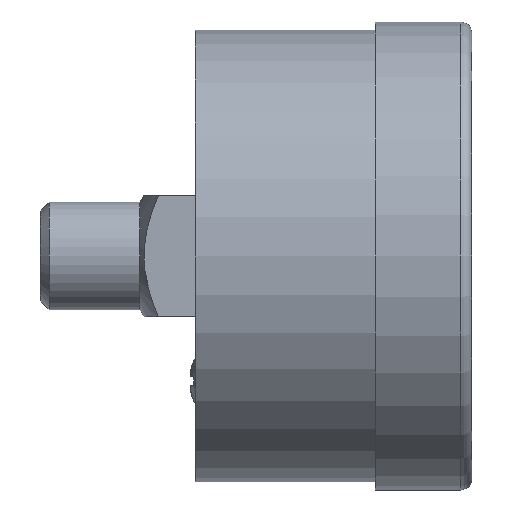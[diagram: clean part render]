
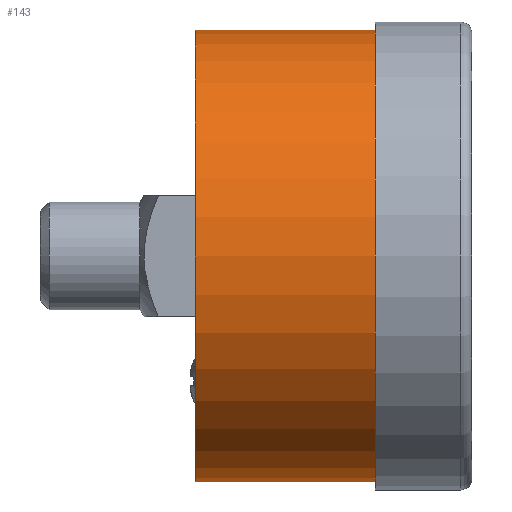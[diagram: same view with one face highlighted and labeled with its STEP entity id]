
A CAD part, front view. The second image highlights one B-rep face of the part: STEP entity #143.
In plain terms, the highlighted cylindrical face has radius 20.4 mm (diameter 40.8 mm), a full revolution.
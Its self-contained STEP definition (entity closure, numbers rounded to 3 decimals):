
#143=ADVANCED_FACE('',(#372,#374),#376,.T.);
#372=FACE_OUTER_BOUND('',#373,.T.);
#373=EDGE_LOOP('',(#1377));
#374=FACE_OUTER_BOUND('',#375,.T.);
#375=EDGE_LOOP('',(#1378));
#376=CYLINDRICAL_SURFACE('',#377,20.4);
#377=AXIS2_PLACEMENT_3D('',#378,#379,#380);
#378=CARTESIAN_POINT('',(0.,0.,0.));
#379=DIRECTION('',(1.,0.,0.));
#380=DIRECTION('',(0.,1.,0.));
#1377=ORIENTED_EDGE('',*,*,#1743,.F.);
#1378=ORIENTED_EDGE('',*,*,#1741,.T.);
#1741=EDGE_CURVE('',#1972,#1972,#1973,.T.);
#1743=EDGE_CURVE('',#1976,#1976,#1977,.T.);
#1972=VERTEX_POINT('',#2477);
#1973=CIRCLE('',#2478,20.4);
#1976=VERTEX_POINT('',#2487);
#1977=CIRCLE('',#2488,20.4);
#2477=CARTESIAN_POINT('',(0.,20.4,0.));
#2478=AXIS2_PLACEMENT_3D('',#2479,#2480,#2481);
#2479=CARTESIAN_POINT('',(0.,0.,0.));
#2480=DIRECTION('',(1.,0.,0.));
#2481=DIRECTION('',(0.,1.,0.));
#2487=CARTESIAN_POINT('',(20.7,20.4,0.));
#2488=AXIS2_PLACEMENT_3D('',#2489,#2490,#2491);
#2489=CARTESIAN_POINT('',(20.7,0.,0.));
#2490=DIRECTION('',(1.,0.,0.));
#2491=DIRECTION('',(0.,1.,0.));
